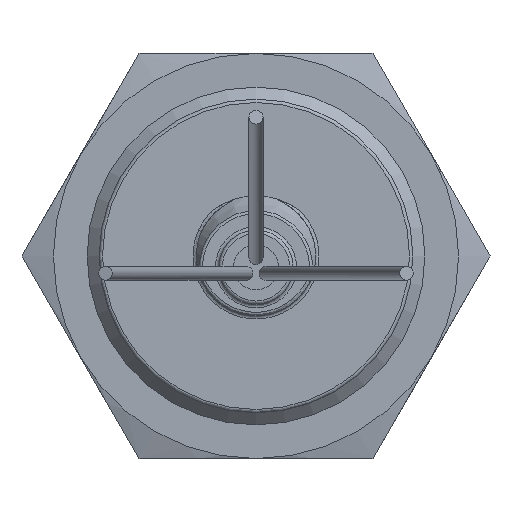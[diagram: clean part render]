
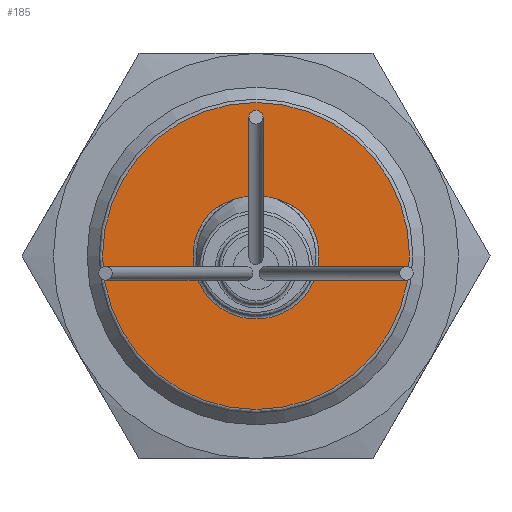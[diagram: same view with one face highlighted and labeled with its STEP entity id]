
A CAD part, left-side view. The second image highlights one B-rep face of the part: STEP entity #185.
In plain terms, the highlighted planar face has unit normal (-1, 0, 0).
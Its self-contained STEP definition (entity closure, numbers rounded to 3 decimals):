
#185 = ADVANCED_FACE( '', ( #240, #241 ), #242, .F. );
#240 = FACE_BOUND( '', #363, .T. );
#241 = FACE_OUTER_BOUND( '', #364, .T. );
#242 = PLANE( '', #365 );
#363 = EDGE_LOOP( '', ( #504, #505 ) );
#364 = EDGE_LOOP( '', ( #506 ) );
#365 = AXIS2_PLACEMENT_3D( '', #507, #508, #509 );
#504 = ORIENTED_EDGE( '', *, *, #745, .T. );
#505 = ORIENTED_EDGE( '', *, *, #749, .F. );
#506 = ORIENTED_EDGE( '', *, *, #753, .F. );
#507 = CARTESIAN_POINT( '', ( 0., 5.6, 0. ) );
#508 = DIRECTION( '', ( 1., 0., 0. ) );
#509 = DIRECTION( '', ( 0., 0., -1. ) );
#745 = EDGE_CURVE( '', #819, #817, #820, .T. );
#749 = EDGE_CURVE( '', #819, #817, #826, .T. );
#753 = EDGE_CURVE( '', #832, #832, #833, .T. );
#817 = VERTEX_POINT( '', #934 );
#819 = VERTEX_POINT( '', #959 );
#820 = CIRCLE( '', #960, 5.6 );
#826 = CIRCLE( '', #1013, 6.347 );
#832 = VERTEX_POINT( '', #1037 );
#833 = CIRCLE( '', #1038, 13.63 );
#934 = CARTESIAN_POINT( '', ( 0., 3.958, 3.962 ) );
#959 = CARTESIAN_POINT( '', ( 0., -3.958, 3.962 ) );
#960 = AXIS2_PLACEMENT_3D( '', #1262, #1263, #1264 );
#1013 = AXIS2_PLACEMENT_3D( '', #1265, #1266, #1267 );
#1037 = CARTESIAN_POINT( '', ( 0., 0., -13.63 ) );
#1038 = AXIS2_PLACEMENT_3D( '', #1271, #1272, #1273 );
#1262 = CARTESIAN_POINT( '', ( 0., 0., 0. ) );
#1263 = DIRECTION( '', ( 1., 0., 0. ) );
#1264 = DIRECTION( '', ( 0., 0., -1. ) );
#1265 = CARTESIAN_POINT( '', ( 0., 0., -1. ) );
#1266 = DIRECTION( '', ( -1., 0., 0. ) );
#1267 = DIRECTION( '', ( 0., 0., 1. ) );
#1271 = CARTESIAN_POINT( '', ( 0., 0., 0. ) );
#1272 = DIRECTION( '', ( 1., 0., 0. ) );
#1273 = DIRECTION( '', ( 0., 0., -1. ) );
